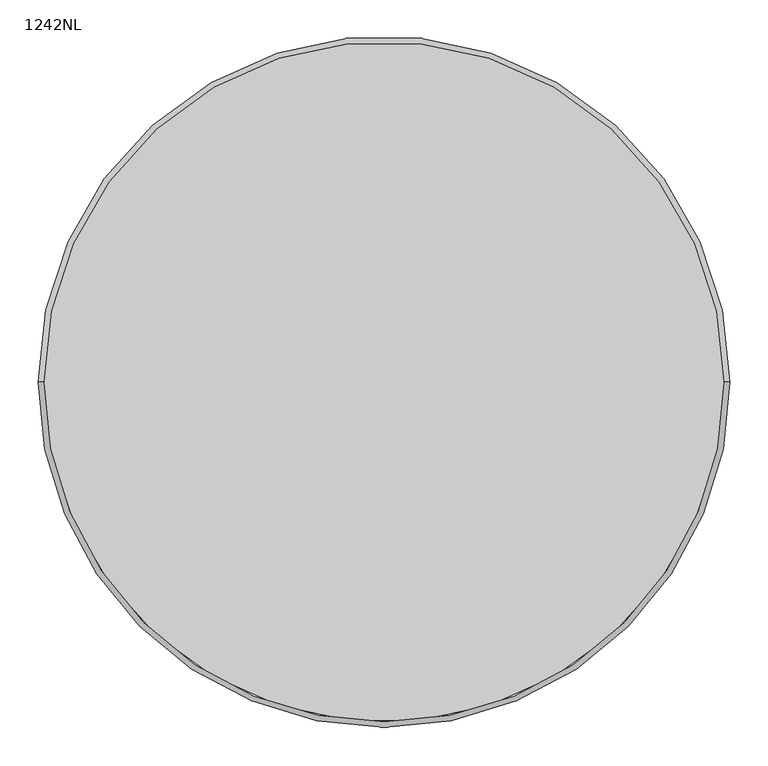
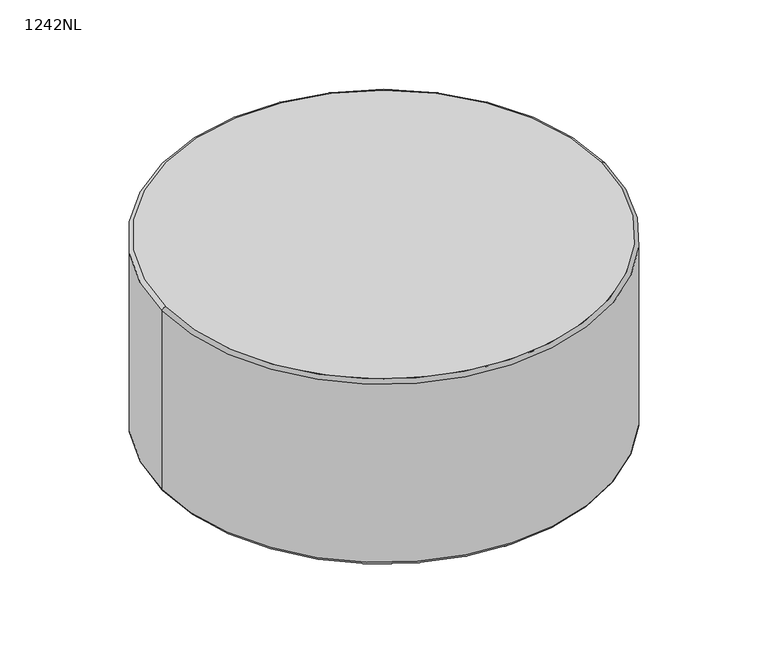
"""IFC4 building model written with IfcOpenShell, lengths in millimetres: furniture geometry, Laguna-Round_Ottomans-No_Legs-ERG : 1242NL."""

from ifc_helpers import new_model, si_unit, point, frame, origin, place, context, project, spatial, circle_curve, ellipse_curve, trimmed, source, transform, mapped, element, save
from ifc_brep_helpers import plane_surface, cylinder_surface, revolved_surface, advanced_brep


def furniture_1242nl_7c49e083(model_context):
    return source(origin(), model_context, "Body", "AdvancedBrep", [
        advanced_brep(
        [(-4243.6421763, 1234.1558502, 10.16), (-4247.8852245, 1234.1558502, 10.16), (-4239.3991282, 1234.1558502, 10.16), (-4229.5638229, 1234.1558502, 0.0), (-4257.7205297, 1234.1558502, 0.0), (-4243.6421763, 1234.1558502, 0.0), (-4229.5638229, 1234.1558502, 3.9615026), (-4257.7205297, 1234.1558502, 3.9615026), (-4239.3991282, 1234.1558502, 3.9615026), (-4247.8852245, 1234.1558502, 3.9615026)],
        [
            (0, 1),
            (1, 2, circle_curve(frame((-4243.6421763, 1234.1558502, 10.16), z_axis=(0.0, 0.0, 1.0), x_axis=(-1.0, 0.0, 0.0)), 4.2430482)),
            (2, 0),
            (2, 1, circle_curve(frame((-4243.6421763, 1234.1558502, 10.16), z_axis=(0.0, 0.0, 1.0), x_axis=(-1.0, 0.0, 0.0)), 4.2430482)),
            (3, 4, circle_curve(frame((-4243.6421763, 1234.1558502, 0.0), z_axis=(0.0, 0.0, -1.0), x_axis=(-1.0, 0.0, 0.0)), 14.0783534)),
            (4, 5),
            (5, 3),
            (4, 3, circle_curve(frame((-4243.6421763, 1234.1558502, 0.0), z_axis=(0.0, 0.0, -1.0), x_axis=(-1.0, 0.0, 0.0)), 14.0783534)),
            (6, 7, circle_curve(frame((-4243.6421763, 1234.1558502, 3.9615026), z_axis=(0.0, 0.0, -1.0), x_axis=(-1.0, 0.0, 0.0)), 14.0783534)),
            (7, 4),
            (3, 6),
            (7, 6, circle_curve(frame((-4243.6421763, 1234.1558502, 3.9615026), z_axis=(0.0, 0.0, -1.0), x_axis=(-1.0, 0.0, 0.0)), 14.0783534)),
            (8, 9, circle_curve(frame((-4243.6421763, 1234.1558502, 3.9615026), z_axis=(0.0, 0.0, -1.0), x_axis=(-1.0, 0.0, 0.0)), 4.2430482)),
            (9, 7),
            (6, 8),
            (9, 8, circle_curve(frame((-4243.6421763, 1234.1558502, 3.9615026), z_axis=(0.0, 0.0, -1.0), x_axis=(-1.0, 0.0, 0.0)), 4.2430482)),
            (1, 9),
            (8, 2),
        ],
        [
            plane_surface(frame((-4243.6421763, 1234.1558502, 10.16), z_axis=(0.0, 0.0, 1.0), x_axis=(-1.0, 0.0, 0.0))),
            plane_surface(frame((-4243.6421763, 1234.1558502, 0.0), z_axis=(0.0, 0.0, -1.0), x_axis=(-1.0, 0.0, 0.0))),
            cylinder_surface(frame((-4243.6421763, 1234.1558502, 80.01), z_axis=(0.0, 0.0, 1.0), x_axis=(-1.0, 0.0, 0.0)), 14.0783534),
            plane_surface(frame((-4243.6421763, 1234.1558502, 3.9615026), z_axis=(0.0, 0.0, 1.0), x_axis=(-1.0, 0.0, 0.0))),
            cylinder_surface(frame((-4243.6421763, 1234.1558502, 80.01), z_axis=(0.0, 0.0, 1.0), x_axis=(-1.0, 0.0, 0.0)), 4.2430482),
        ],
        [
            (0, [[1, 2, 3]]),
            (0, [[-3, 4, -1]]),
            (1, [[5, 6, 7]]),
            (1, [[8, -7, -6]]),
            (2, [[9, 10, -5, 11]]),
            (2, [[12, -11, -8, -10]]),
            (3, [[13, 14, -9, 15]]),
            (3, [[16, -15, -12, -14]]),
            (4, [[-2, 17, -13, 18]]),
            (4, [[-4, -18, -16, -17]]),
        ],
    ),
        advanced_brep(
        [(-5086.0852245, 1234.1558502, 3.9615026), (-5077.5991282, 1234.1558502, 3.9615026), (-5077.5991282, 1234.1558502, 10.16), (-5086.0852245, 1234.1558502, 10.16), (-5095.9205297, 1234.1558502, 3.9615026), (-5067.7638229, 1234.1558502, 3.9615026), (-5095.9205297, 1234.1558502, 0.0), (-5067.7638229, 1234.1558502, 0.0), (-5081.8421763, 1234.1558502, 0.0), (-5081.8421763, 1234.1558502, 10.16)],
        [
            (0, 1, circle_curve(frame((-5081.8421763, 1234.1558502, 3.9615026), z_axis=(0.0, 0.0, 1.0), x_axis=(1.0, 0.0, 0.0)), 4.2430482)),
            (1, 2),
            (2, 3, circle_curve(frame((-5081.8421763, 1234.1558502, 10.16), z_axis=(0.0, 0.0, -1.0), x_axis=(1.0, 0.0, 0.0)), 4.2430482)),
            (3, 0),
            (1, 0, circle_curve(frame((-5081.8421763, 1234.1558502, 3.9615026), z_axis=(0.0, 0.0, 1.0), x_axis=(1.0, 0.0, 0.0)), 4.2430482)),
            (3, 2, circle_curve(frame((-5081.8421763, 1234.1558502, 10.16), z_axis=(0.0, 0.0, -1.0), x_axis=(1.0, 0.0, 0.0)), 4.2430482)),
            (4, 5, circle_curve(frame((-5081.8421763, 1234.1558502, 3.9615026), z_axis=(0.0, 0.0, 1.0), x_axis=(1.0, 0.0, 0.0)), 14.0783534)),
            (5, 1),
            (0, 4),
            (5, 4, circle_curve(frame((-5081.8421763, 1234.1558502, 3.9615026), z_axis=(0.0, 0.0, 1.0), x_axis=(1.0, 0.0, 0.0)), 14.0783534)),
            (6, 7, circle_curve(frame((-5081.8421763, 1234.1558502, 0.0), z_axis=(0.0, 0.0, 1.0), x_axis=(1.0, 0.0, 0.0)), 14.0783534)),
            (7, 5),
            (4, 6),
            (7, 6, circle_curve(frame((-5081.8421763, 1234.1558502, 0.0), z_axis=(0.0, 0.0, 1.0), x_axis=(1.0, 0.0, 0.0)), 14.0783534)),
            (8, 7),
            (6, 8),
            (2, 9),
            (9, 3),
        ],
        [
            cylinder_surface(frame((-5081.8421763, 1234.1558502, 29.21), z_axis=(0.0, 0.0, -1.0), x_axis=(1.0, 0.0, 0.0)), 4.2430482),
            plane_surface(frame((-5081.8421763, 1234.1558502, 3.9615026), z_axis=(0.0, 0.0, 1.0), x_axis=(1.0, 0.0, 0.0))),
            cylinder_surface(frame((-5081.8421763, 1234.1558502, 29.21), z_axis=(0.0, 0.0, -1.0), x_axis=(1.0, 0.0, 0.0)), 14.0783534),
            plane_surface(frame((-5081.8421763, 1234.1558502, 0.0), z_axis=(0.0, 0.0, -1.0), x_axis=(1.0, 0.0, 0.0))),
            plane_surface(frame((-5081.8421763, 1234.1558502, 10.16), z_axis=(0.0, 0.0, 1.0), x_axis=(1.0, 0.0, 0.0))),
        ],
        [
            (0, [[1, 2, 3, 4]]),
            (0, [[5, -4, 6, -2]]),
            (1, [[7, 8, -1, 9]]),
            (1, [[10, -9, -5, -8]]),
            (2, [[11, 12, -7, 13]]),
            (2, [[14, -13, -10, -12]]),
            (3, [[15, -11, 16]]),
            (3, [[-16, -14, -15]]),
            (4, [[-3, 17, 18]]),
            (4, [[-6, -18, -17]]),
        ],
    ),
        advanced_brep(
        [(-4662.7421763, 819.2988983, 3.9615026), (-4662.7421763, 810.812802, 3.9615026), (-4662.7421763, 810.812802, 10.16), (-4662.7421763, 819.2988983, 10.16), (-4662.7421763, 829.1342036, 3.9615026), (-4662.7421763, 800.9774967, 3.9615026), (-4662.7421763, 829.1342036, 0.0), (-4662.7421763, 800.9774967, 0.0), (-4662.7421763, 815.0558502, 0.0), (-4662.7421763, 815.0558502, 10.16)],
        [
            (0, 1, circle_curve(frame((-4662.7421763, 815.0558502, 3.9615026), z_axis=(0.0, 0.0, 1.0), x_axis=(0.0, -1.0, 0.0)), 4.2430482)),
            (1, 2),
            (2, 3, circle_curve(frame((-4662.7421763, 815.0558502, 10.16), z_axis=(0.0, 0.0, -1.0), x_axis=(0.0, -1.0, 0.0)), 4.2430482)),
            (3, 0),
            (1, 0, circle_curve(frame((-4662.7421763, 815.0558502, 3.9615026), z_axis=(0.0, 0.0, 1.0), x_axis=(0.0, -1.0, 0.0)), 4.2430482)),
            (3, 2, circle_curve(frame((-4662.7421763, 815.0558502, 10.16), z_axis=(0.0, 0.0, -1.0), x_axis=(0.0, -1.0, 0.0)), 4.2430482)),
            (4, 5, circle_curve(frame((-4662.7421763, 815.0558502, 3.9615026), z_axis=(0.0, 0.0, 1.0), x_axis=(0.0, -1.0, 0.0)), 14.0783534)),
            (5, 1),
            (0, 4),
            (5, 4, circle_curve(frame((-4662.7421763, 815.0558502, 3.9615026), z_axis=(0.0, 0.0, 1.0), x_axis=(0.0, -1.0, 0.0)), 14.0783534)),
            (6, 7, circle_curve(frame((-4662.7421763, 815.0558502, 0.0), z_axis=(0.0, 0.0, 1.0), x_axis=(0.0, -1.0, 0.0)), 14.0783534)),
            (7, 5),
            (4, 6),
            (7, 6, circle_curve(frame((-4662.7421763, 815.0558502, 0.0), z_axis=(0.0, 0.0, 1.0), x_axis=(0.0, -1.0, 0.0)), 14.0783534)),
            (8, 7),
            (6, 8),
            (2, 9),
            (9, 3),
        ],
        [
            cylinder_surface(frame((-4662.7421763, 815.0558502, 39.775957), z_axis=(0.0, 0.0, -1.0), x_axis=(0.0, -1.0, 0.0)), 4.2430482),
            plane_surface(frame((-4662.7421763, 815.0558502, 3.9615026), z_axis=(0.0, 0.0, 1.0), x_axis=(0.0, -1.0, 0.0))),
            cylinder_surface(frame((-4662.7421763, 815.0558502, 39.775957), z_axis=(0.0, 0.0, -1.0), x_axis=(0.0, -1.0, 0.0)), 14.0783534),
            plane_surface(frame((-4662.7421763, 815.0558502, 0.0), z_axis=(0.0, 0.0, -1.0), x_axis=(0.0, -1.0, 0.0))),
            plane_surface(frame((-4662.7421763, 815.0558502, 10.16), z_axis=(0.0, 0.0, 1.0), x_axis=(0.0, -1.0, 0.0))),
        ],
        [
            (0, [[1, 2, 3, 4]]),
            (0, [[5, -4, 6, -2]]),
            (1, [[7, 8, -1, 9]]),
            (1, [[10, -9, -5, -8]]),
            (2, [[11, 12, -7, 13]]),
            (2, [[14, -13, -10, -12]]),
            (3, [[15, -11, 16]]),
            (3, [[-16, -14, -15]]),
            (4, [[-3, 17, 18]]),
            (4, [[-6, -18, -17]]),
        ],
    ),
        advanced_brep(
        [(-4662.7421763, 1657.4988983, 3.9615026), (-4662.7421763, 1649.012802, 3.9615026), (-4662.7421763, 1649.012802, 10.16), (-4662.7421763, 1657.4988983, 10.16), (-4662.7421763, 1667.3342036, 3.9615026), (-4662.7421763, 1639.1774967, 3.9615026), (-4662.7421763, 1667.3342036, 0.0), (-4662.7421763, 1639.1774967, 0.0), (-4662.7421763, 1653.2558502, 0.0), (-4662.7421763, 1653.2558502, 10.16)],
        [
            (0, 1, circle_curve(frame((-4662.7421763, 1653.2558502, 3.9615026), z_axis=(0.0, 0.0, 1.0), x_axis=(0.0, -1.0, 0.0)), 4.2430482)),
            (1, 2),
            (2, 3, circle_curve(frame((-4662.7421763, 1653.2558502, 10.16), z_axis=(0.0, 0.0, -1.0), x_axis=(0.0, -1.0, 0.0)), 4.2430482)),
            (3, 0),
            (1, 0, circle_curve(frame((-4662.7421763, 1653.2558502, 3.9615026), z_axis=(0.0, 0.0, 1.0), x_axis=(0.0, -1.0, 0.0)), 4.2430482)),
            (3, 2, circle_curve(frame((-4662.7421763, 1653.2558502, 10.16), z_axis=(0.0, 0.0, -1.0), x_axis=(0.0, -1.0, 0.0)), 4.2430482)),
            (4, 5, circle_curve(frame((-4662.7421763, 1653.2558502, 3.9615026), z_axis=(0.0, 0.0, 1.0), x_axis=(0.0, -1.0, 0.0)), 14.0783534)),
            (5, 1),
            (0, 4),
            (5, 4, circle_curve(frame((-4662.7421763, 1653.2558502, 3.9615026), z_axis=(0.0, 0.0, 1.0), x_axis=(0.0, -1.0, 0.0)), 14.0783534)),
            (6, 7, circle_curve(frame((-4662.7421763, 1653.2558502, 0.0), z_axis=(0.0, 0.0, 1.0), x_axis=(0.0, -1.0, 0.0)), 14.0783534)),
            (7, 5),
            (4, 6),
            (7, 6, circle_curve(frame((-4662.7421763, 1653.2558502, 0.0), z_axis=(0.0, 0.0, 1.0), x_axis=(0.0, -1.0, 0.0)), 14.0783534)),
            (8, 7),
            (6, 8),
            (2, 9),
            (9, 3),
        ],
        [
            cylinder_surface(frame((-4662.7421763, 1653.2558502, 48.26), z_axis=(0.0, 0.0, -1.0), x_axis=(0.0, -1.0, 0.0)), 4.2430482),
            plane_surface(frame((-4662.7421763, 1653.2558502, 3.9615026), z_axis=(0.0, 0.0, 1.0), x_axis=(0.0, -1.0, 0.0))),
            cylinder_surface(frame((-4662.7421763, 1653.2558502, 48.26), z_axis=(0.0, 0.0, -1.0), x_axis=(0.0, -1.0, 0.0)), 14.0783534),
            plane_surface(frame((-4662.7421763, 1653.2558502, 0.0), z_axis=(0.0, 0.0, -1.0), x_axis=(0.0, -1.0, 0.0))),
            plane_surface(frame((-4662.7421763, 1653.2558502, 10.16), z_axis=(0.0, 0.0, 1.0), x_axis=(0.0, -1.0, 0.0))),
        ],
        [
            (0, [[1, 2, 3, 4]]),
            (0, [[5, -4, 6, -2]]),
            (1, [[7, 8, -1, 9]]),
            (1, [[10, -9, -5, -8]]),
            (2, [[11, 12, -7, 13]]),
            (2, [[14, -13, -10, -12]]),
            (3, [[15, -11, 16]]),
            (3, [[-16, -14, -15]]),
            (4, [[-3, 17, 18]]),
            (4, [[-6, -18, -17]]),
        ],
    ),
        advanced_brep(
        [(-4211.881116, 1234.1558502, 399.8831003), (-5113.6032366, 1234.1558502, 399.8831003), (-5113.6032366, 1234.1558502, 16.6768997), (-4211.881116, 1234.1558502, 16.6768997), (-4218.8439761, 1234.1558502, 406.4), (-5106.6403765, 1234.1558502, 406.4), (-5106.6403765, 1234.1558502, 10.16), (-4218.8439761, 1234.1558502, 10.16)],
        [
            (0, 1, circle_curve(frame((-4662.7421763, 1234.1558502, 399.8831003), z_axis=(0.0, 0.0, -1.0), x_axis=(-1.0, 0.0, 0.0)), 450.8610603)),
            (1, 2, circle_curve(frame((-2221.0401763, 1234.1558502, 208.28), z_axis=(0.0, -1.0, 0.0), x_axis=(1.0, 0.0, 0.0)), 2898.902)),
            (2, 3, circle_curve(frame((-4662.7421763, 1234.1558502, 16.6768997), z_axis=(0.0, 0.0, 1.0), x_axis=(-1.0, 0.0, 0.0)), 450.8610603)),
            (3, 0, circle_curve(frame((-7104.4441763, 1234.1558502, 208.28), z_axis=(0.0, -1.0, 0.0), x_axis=(-1.0, 0.0, 0.0)), 2898.902)),
            (0, 4, circle_curve(frame((-4218.8439761, 1234.1558502, 399.4218811), z_axis=(0.0, -1.0, 0.0), x_axis=(-1.0, 0.0, 0.0)), 6.9781189)),
            (4, 5, circle_curve(frame((-4662.7421763, 1234.1558502, 406.4), z_axis=(0.0, 0.0, -1.0), x_axis=(-1.0, 0.0, 0.0)), 443.8982002)),
            (5, 1, circle_curve(frame((-5106.6403765, 1234.1558502, 399.4218811), z_axis=(0.0, -1.0, 0.0), x_axis=(1.0, 0.0, 0.0)), 6.9781189)),
            (2, 6, circle_curve(frame((-5106.6403765, 1234.1558502, 17.1381189), z_axis=(0.0, -1.0, 0.0), x_axis=(1.0, 0.0, 0.0)), 6.9781189)),
            (6, 7, circle_curve(frame((-4662.7421763, 1234.1558502, 10.16), z_axis=(0.0, 0.0, 1.0), x_axis=(-1.0, 0.0, 0.0)), 443.8982002)),
            (7, 3, circle_curve(frame((-4218.8439761, 1234.1558502, 17.1381189), z_axis=(0.0, -1.0, 0.0), x_axis=(-1.0, 0.0, 0.0)), 6.9781189)),
            (1, 0, circle_curve(frame((-4662.7421763, 1234.1558502, 399.8831003), z_axis=(0.0, 0.0, -1.0), x_axis=(1.0, 0.0, 0.0)), 450.8610603)),
            (3, 2, circle_curve(frame((-4662.7421763, 1234.1558502, 16.6768997), z_axis=(0.0, 0.0, 1.0), x_axis=(1.0, 0.0, 0.0)), 450.8610603)),
            (5, 4, circle_curve(frame((-4662.7421763, 1234.1558502, 406.4), z_axis=(0.0, 0.0, -1.0), x_axis=(1.0, 0.0, 0.0)), 443.8982002)),
            (7, 6, circle_curve(frame((-4662.7421763, 1234.1558502, 10.16), z_axis=(0.0, 0.0, 1.0), x_axis=(1.0, 0.0, 0.0)), 443.8982002)),
        ],
        [
            revolved_surface(trimmed(ellipse_curve(frame((-2221.0401763, 1234.1558502, 208.28), z_axis=(0.0, 1.0, 0.0), x_axis=(1.0, 0.0, 0.0)), 2898.902, 2898.902), [point((-5113.6032366, 1234.1558502, 16.6768997))], [point((-5113.6032366, 1234.1558502, 399.8831003))], True, "CARTESIAN"), (-4662.7421763, 1234.1558502, 0.0), (0.0, 0.0, 1.0)),
            revolved_surface(trimmed(ellipse_curve(frame((-5106.6403765, 1234.1558502, 399.4218811), z_axis=(0.0, 1.0, 0.0), x_axis=(1.0, 0.0, 0.0)), 6.9781189, 6.9781189), [point((-5113.6032366, 1234.1558502, 399.8831003))], [point((-5106.6403765, 1234.1558502, 406.4))], True, "CARTESIAN"), (-4662.7421763, 1234.1558502, 0.0), (0.0, 0.0, 1.0)),
            revolved_surface(trimmed(ellipse_curve(frame((-5106.6403765, 1234.1558502, 17.1381189), z_axis=(0.0, 1.0, 0.0), x_axis=(1.0, 0.0, 0.0)), 6.9781189, 6.9781189), [point((-5106.6403765, 1234.1558502, 10.16))], [point((-5113.6032366, 1234.1558502, 16.6768997))], True, "CARTESIAN"), (-4662.7421763, 1234.1558502, 0.0), (0.0, 0.0, 1.0)),
            revolved_surface(trimmed(ellipse_curve(frame((-7104.4441763, 1234.1558502, 208.28), z_axis=(0.0, -1.0, 0.0), x_axis=(-1.0, 0.0, 0.0)), 2898.902, 2898.902), [point((-4211.881116, 1234.1558502, 16.6768997))], [point((-4211.881116, 1234.1558502, 399.8831003))], True, "CARTESIAN"), (-4662.7421763, 1234.1558502, 0.0), (0.0, 0.0, 1.0)),
            revolved_surface(trimmed(ellipse_curve(frame((-4218.8439761, 1234.1558502, 399.4218811), z_axis=(0.0, -1.0, 0.0), x_axis=(-1.0, 0.0, 0.0)), 6.9781189, 6.9781189), [point((-4211.881116, 1234.1558502, 399.8831003))], [point((-4218.8439761, 1234.1558502, 406.4))], True, "CARTESIAN"), (-4662.7421763, 1234.1558502, 0.0), (0.0, 0.0, 1.0)),
            revolved_surface(trimmed(ellipse_curve(frame((-4218.8439761, 1234.1558502, 17.1381189), z_axis=(0.0, -1.0, 0.0), x_axis=(-1.0, 0.0, 0.0)), 6.9781189, 6.9781189), [point((-4218.8439761, 1234.1558502, 10.16))], [point((-4211.881116, 1234.1558502, 16.6768997))], True, "CARTESIAN"), (-4662.7421763, 1234.1558502, 0.0), (0.0, 0.0, 1.0)),
            plane_surface(frame((-4218.8439761, 1234.1558502, 406.4), z_axis=(0.0, 0.0, 1.0), x_axis=(0.0, 1.0, 0.0))),
            plane_surface(frame((-4218.8439761, 1234.1558502, 10.16), z_axis=(0.0, 0.0, -1.0), x_axis=(0.0, -1.0, 0.0))),
        ],
        [
            (0, [[1, 2, 3, 4]]),
            (1, [[-1, 5, 6, 7]]),
            (2, [[-3, 8, 9, 10]]),
            (3, [[-2, 11, -4, 12]]),
            (4, [[-7, 13, -5, -11]]),
            (5, [[-8, -12, -10, 14]]),
            (6, [[-6, -13]]),
            (7, [[-9, -14]]),
        ],
    ),
    ])


if __name__ == "__main__":
    model = new_model("IFC4")
    model_context = context("Model", 3, world=origin())
    ifc_project = project(units=[si_unit("LENGTHUNIT", "METRE", prefix="MILLI")], contexts=[model_context])
    site = spatial("IfcSite", under=ifc_project)
    building = spatial("IfcBuilding", under=site)
    placement = place(None, origin())
    furniture_1242nl_shape = furniture_1242nl_7c49e083(model_context)
    element("IfcFurniture", 1, ObjectType="Laguna-Round_Ottomans-No_Legs-ERG : 1242NL", at=placement, inside=building, context=model_context, shape_type="MappedRepresentation", body=[
        mapped(furniture_1242nl_shape, transform((0.0, 0.0, 0.0), x_axis=(1.0, 0.0, 0.0), y_axis=(0.0, 1.0, 0.0), z_axis=(0.0, 0.0, 1.0))),
    ])
    save(model, "model.ifc")
